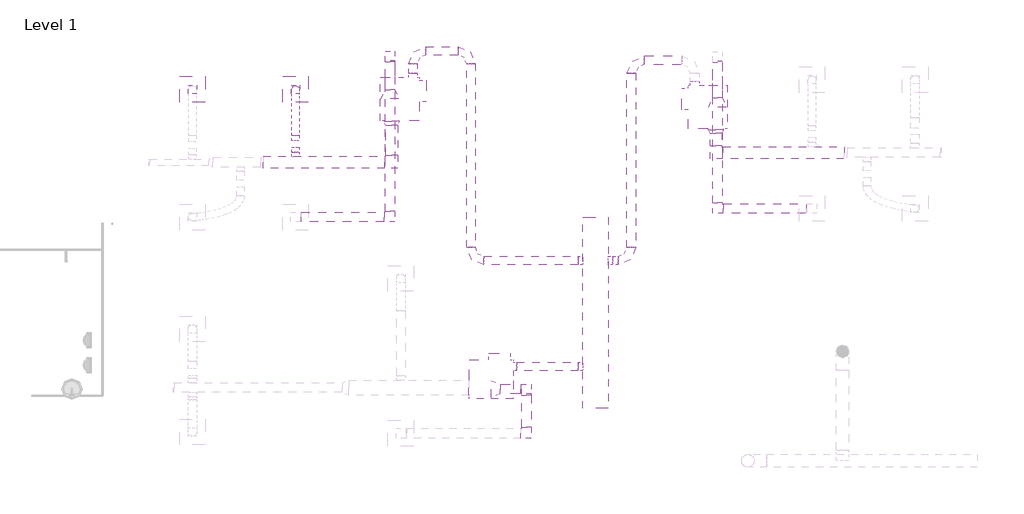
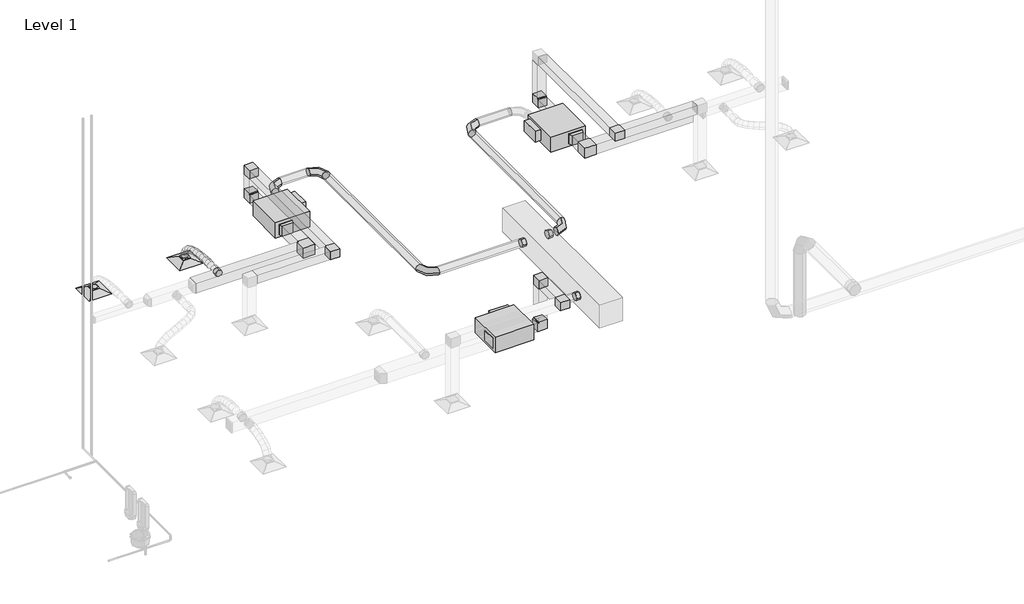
# One storey, part 5 of 7: 27 duct segments, 26 duct fittings, 3 proxies, 2 air terminals.
"""IFC4 building model written with IfcOpenShell, lengths in millimetres."""

from ifc_helpers import new_model, si_unit, point, frame, frame_2d, origin, place, context, project, spatial, polyline, circle_curve, ellipse_curve, trimmed, segment, composite_curve, outline, extrude, transform, mapped, element, save
from ifc_brep_helpers import plane_surface, cylinder_surface, advanced_brep
from components import return_diffuser_24_x_24_face_8_x_8_connection_1cf4ec6c, vav_unit_parallel_fan_powered_size_3_8_inch_inlet_1779b90c, vav_unit_parallel_fan_powered_size_3_8_inch_inlet_9de80a88, rectangular_elbow_mitered_standard_c807a2e4, rectangular_elbow_mitered_standard_ce3c2c2c, rectangular_elbow_mitered_standard_02695c2b, rectangular_elbow_mitered_standard_e940fa41, rectangular_elbow_mitered_standard_b28c36ac, rectangular_transition_angle_45_degree_5c02a915, rectangular_transition_angle_45_degree_d2551588, rectangular_transition_angle_45_degree_34230bd5, rectangular_transition_angle_45_degree_159382a9, rectangular_transition_angle_45_degree_902e052a, rectangular_to_round_transition_angle_45_degree_5c3b2161, round_elbow_1_5_d_83134554, round_takeoff_standard_f7421198, round_takeoff_standard_1127d77f, round_takeoff_standard_d3b0d0f9

model = new_model("IFC4")

# Units and contexts
model_context = context("Model", 3, world=origin())
ifc_project = project(units=[si_unit("LENGTHUNIT", "METRE", prefix="MILLI")], contexts=[model_context])

# Site, building, storey
site = spatial("IfcSite", under=ifc_project)
building = spatial("IfcBuilding", under=site)
storey = spatial("IfcBuildingStorey", under=building, Name="Level 1", Elevation=0.0)

# Air terminals
placement = place(None, origin())
return_diffuser_24_x_24_face_8_x_8_connection_shape = return_diffuser_24_x_24_face_8_x_8_connection_1cf4ec6c(model_context)
element("IfcAirTerminal", 1, ObjectType="Supply Diffuser : 24 x 24 Face 8 x 8 Connection", at=placement, inside=storey, context=model_context, shape_type="MappedRepresentation", body=[
    mapped(return_diffuser_24_x_24_face_8_x_8_connection_shape, transform((-14620.325255, 16201.8737109, 2438.4), x_axis=(1.0, 0.0, 0.0), y_axis=(0.0, 1.0, 0.0), z_axis=(0.0, 0.0, 1.0))),
])
element("IfcAirTerminal", 2, ObjectType="Supply Diffuser : 24 x 24 Face 8 x 8 Connection", at=placement, inside=storey, context=model_context, shape_type="MappedRepresentation", body=[
    mapped(return_diffuser_24_x_24_face_8_x_8_connection_shape, transform((-12181.925255, 16201.8737109, 2438.4), x_axis=(1.0, 0.0, 0.0), y_axis=(0.0, 1.0, 0.0), z_axis=(0.0, 0.0, 1.0))),
])

# Proxies
vav_unit_parallel_fan_powered_size_3_8_inch_inlet_shape = vav_unit_parallel_fan_powered_size_3_8_inch_inlet_1779b90c(model_context)
element("IfcBuildingElementProxy", 3, Name="VAV Unit - Parallel Fan Powered : Size 3 - 8 inch Inlet", ObjectType="VAV Unit - Parallel Fan Powered : Size 3 - 8 inch Inlet", at=placement, inside=storey, context=model_context, shape_type="MappedRepresentation", body=[
    mapped(vav_unit_parallel_fan_powered_size_3_8_inch_inlet_shape, transform((-9717.4242371, 15973.8698996, 3048.0), x_axis=(0.0, -1.0, 0.0), y_axis=(1.0, 0.0, 0.0), z_axis=(0.0, 0.0, 1.0))),
])
vav_unit_parallel_fan_powered_size_3_8_inch_inlet_2_shape = vav_unit_parallel_fan_powered_size_3_8_inch_inlet_9de80a88(model_context)
element("IfcBuildingElementProxy", 4, Name="VAV Unit - Parallel Fan Powered : Size 3 - 8 inch Inlet", ObjectType="VAV Unit - Parallel Fan Powered : Size 3 - 8 inch Inlet", at=placement, inside=storey, context=model_context, shape_type="MappedRepresentation", body=[
    mapped(vav_unit_parallel_fan_powered_size_3_8_inch_inlet_2_shape, transform((-7559.125255, 9347.2748073, 3048.0), x_axis=(-1.0000000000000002, 0.0, 0.0), y_axis=(0.0, -1.0000000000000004, 0.0), z_axis=(0.0, 0.0, 1.0000000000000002))),
])
element("IfcBuildingElementProxy", 5, Name="VAV Unit - Parallel Fan Powered : Size 3 - 8 inch Inlet", ObjectType="VAV Unit - Parallel Fan Powered : Size 3 - 8 inch Inlet", at=placement, inside=storey, context=model_context, shape_type="MappedRepresentation", body=[
    mapped(vav_unit_parallel_fan_powered_size_3_8_inch_inlet_2_shape, transform((-2438.5512728, 15784.0573996, 3048.0), x_axis=(0.0, -1.0, 0.0), y_axis=(1.0, 0.0, 0.0), z_axis=(0.0, 0.0, 1.0))),
])

# Duct fittings
rectangular_elbow_mitered_standard_shape = rectangular_elbow_mitered_standard_c807a2e4(model_context)
element("IfcDuctFitting", 6, ObjectType="Rectangular Elbow - Mitered : Standard", at=placement, inside=storey, context=model_context, shape_type="MappedRepresentation", body=[
    mapped(rectangular_elbow_mitered_standard_shape, transform((-9911.0992371, 14476.8573996, 3048.0), x_axis=(1.0, 0.0, 0.0), y_axis=(0.0, 1.0, 0.0), z_axis=(0.0, 0.0, 1.0))),
])
rectangular_elbow_mitered_standard_2_shape = rectangular_elbow_mitered_standard_ce3c2c2c(model_context)
element("IfcDuctFitting", 7, ObjectType="Rectangular Elbow - Mitered : Standard", at=placement, inside=storey, context=model_context, shape_type="MappedRepresentation", body=[
    mapped(rectangular_elbow_mitered_standard_2_shape, transform((-9949.1992371, 16989.8698996, 3048.0), x_axis=(0.0, 1.0, 0.0), y_axis=(0.0, 0.0, 1.0), z_axis=(1.0, 0.0, 0.0))),
])
element("IfcDuctFitting", 8, ObjectType="Rectangular Elbow - Mitered : Standard", at=placement, inside=storey, context=model_context, shape_type="MappedRepresentation", body=[
    mapped(rectangular_elbow_mitered_standard_2_shape, transform((-9949.1992371, 16989.8698996, 3747.2), x_axis=(0.0, 0.0, 1.0), y_axis=(0.0, -1.0, 0.0), z_axis=(1.0, 0.0, 0.0))),
])
element("IfcDuctFitting", 9, ObjectType="Rectangular Elbow - Mitered : Standard", at=placement, inside=storey, context=model_context, shape_type="MappedRepresentation", body=[
    mapped(rectangular_elbow_mitered_standard_2_shape, transform((-9949.1992371, 13180.8612109, 3747.2), x_axis=(1.0, 0.0, 0.0), y_axis=(0.0, 1.0, 0.0), z_axis=(0.0, 0.0, 1.0))),
])
rectangular_elbow_mitered_standard_3_shape = rectangular_elbow_mitered_standard_02695c2b(model_context)
element("IfcDuctFitting", 10, ObjectType="Rectangular Elbow - Mitered : Standard", at=placement, inside=storey, context=model_context, shape_type="MappedRepresentation", body=[
    mapped(rectangular_elbow_mitered_standard_3_shape, transform((-6724.5351062, 9115.4998073, 3048.0), x_axis=(1.0, 0.0, 0.0), y_axis=(0.0, 0.0, 1.0), z_axis=(0.0, -1.0, 0.0))),
])
element("IfcDuctFitting", 11, ObjectType="Rectangular Elbow - Mitered : Standard", at=placement, inside=storey, context=model_context, shape_type="MappedRepresentation", body=[
    mapped(rectangular_elbow_mitered_standard_3_shape, transform((-6724.5351062, 9115.4998073, 4267.2), x_axis=(0.0, 0.0, 1.0), y_axis=(0.0, -1.0, 0.0), z_axis=(1.0, 0.0, 0.0))),
])
element("IfcDuctFitting", 12, ObjectType="Rectangular Elbow - Mitered : Standard", at=placement, inside=storey, context=model_context, shape_type="MappedRepresentation", body=[
    mapped(rectangular_elbow_mitered_standard_3_shape, transform((-6724.5351062, 8073.8737109, 4267.2), x_axis=(1.0, 0.0, 0.0), y_axis=(0.0, 1.0, 0.0), z_axis=(0.0, 0.0, 1.0))),
])
rectangular_elbow_mitered_standard_4_shape = rectangular_elbow_mitered_standard_e940fa41(model_context)
element("IfcDuctFitting", 13, ObjectType="Rectangular Elbow - Mitered : Standard", at=placement, inside=storey, context=model_context, shape_type="MappedRepresentation", body=[
    mapped(rectangular_elbow_mitered_standard_4_shape, transform((-2244.8762728, 14707.0448996, 3048.0), x_axis=(-1.0, 0.0, 0.0), y_axis=(0.0, -1.0, 0.0), z_axis=(0.0, 0.0, 1.0))),
])
rectangular_elbow_mitered_standard_5_shape = rectangular_elbow_mitered_standard_b28c36ac(model_context)
element("IfcDuctFitting", 14, ObjectType="Rectangular Elbow - Mitered : Standard", at=placement, inside=storey, context=model_context, shape_type="MappedRepresentation", body=[
    mapped(rectangular_elbow_mitered_standard_5_shape, transform((-2206.7762728, 16980.0573996, 3048.0), x_axis=(0.0, 1.0, 0.0), y_axis=(0.0, 0.0, -1.0), z_axis=(-1.0, 0.0, 0.0))),
])
element("IfcDuctFitting", 15, ObjectType="Rectangular Elbow - Mitered : Standard", at=placement, inside=storey, context=model_context, shape_type="MappedRepresentation", body=[
    mapped(rectangular_elbow_mitered_standard_5_shape, transform((-2206.7762728, 13384.0612109, 4267.2), x_axis=(-1.0, 0.0, 0.0), y_axis=(0.0, -1.0, 0.0), z_axis=(0.0, 0.0, 1.0))),
])
rectangular_transition_angle_45_degree_shape = rectangular_transition_angle_45_degree_5c02a915(model_context)
element("IfcDuctFitting", 16, ObjectType="Rectangular Transition - Angle : 45 Degree", at=placement, inside=storey, context=model_context, shape_type="MappedRepresentation", body=[
    mapped(rectangular_transition_angle_45_degree_shape, transform((-9911.0992371, 15442.0573996, 3048.0), x_axis=(0.0, -1.0, 0.0), y_axis=(1.0, 0.0, 0.0), z_axis=(0.0, 0.0, 1.0))),
])
rectangular_transition_angle_45_degree_2_shape = rectangular_transition_angle_45_degree_d2551588(model_context)
element("IfcDuctFitting", 17, ObjectType="Rectangular Transition - Angle : 45 Degree", at=placement, inside=storey, context=model_context, shape_type="MappedRepresentation", body=[
    mapped(rectangular_transition_angle_45_degree_2_shape, transform((-9949.1992371, 15973.8698996, 3048.0), x_axis=(0.0, 1.0, 0.0), y_axis=(-1.0, 0.0, 0.0), z_axis=(0.0, 0.0, 1.0))),
])
rectangular_transition_angle_45_degree_3_shape = rectangular_transition_angle_45_degree_34230bd5(model_context)
element("IfcDuctFitting", 18, ObjectType="Rectangular Transition - Angle : 45 Degree", at=placement, inside=storey, context=model_context, shape_type="MappedRepresentation", body=[
    mapped(rectangular_transition_angle_45_degree_3_shape, transform((-7559.125255, 9115.4998073, 3048.0), x_axis=(1.0, 0.0, 0.0), y_axis=(0.0, 1.0, 0.0), z_axis=(0.0, 0.0, 1.0))),
])
rectangular_transition_angle_45_degree_4_shape = rectangular_transition_angle_45_degree_159382a9(model_context)
element("IfcDuctFitting", 19, ObjectType="Rectangular Transition - Angle : 45 Degree", at=placement, inside=storey, context=model_context, shape_type="MappedRepresentation", body=[
    mapped(rectangular_transition_angle_45_degree_4_shape, transform((-2244.8762728, 15252.2448996, 3048.0), x_axis=(0.0, -1.0, 0.0), y_axis=(1.0, 0.0, 0.0), z_axis=(0.0, 0.0, 1.0))),
])
rectangular_transition_angle_45_degree_5_shape = rectangular_transition_angle_45_degree_902e052a(model_context)
element("IfcDuctFitting", 20, ObjectType="Rectangular Transition - Angle : 45 Degree", at=placement, inside=storey, context=model_context, shape_type="MappedRepresentation", body=[
    mapped(rectangular_transition_angle_45_degree_5_shape, transform((-2206.7762728, 15784.0573996, 3048.0), x_axis=(0.0, 1.0, 0.0), y_axis=(-1.0, 0.0, 0.0), z_axis=(0.0, 0.0, 1.0))),
])
rectangular_to_round_transition_angle_45_degree_shape = rectangular_to_round_transition_angle_45_degree_5c3b2161(model_context)
element("IfcDuctFitting", 21, ObjectType="Rectangular to Round Transition - Angle : 45 Degree", at=placement, inside=storey, context=model_context, shape_type="MappedRepresentation", body=[
    mapped(rectangular_to_round_transition_angle_45_degree_shape, transform((-14620.325255, 16201.8737109, 2540.0), x_axis=(0.0, 0.0, 1.0), y_axis=(1.0, 0.0, 0.0), z_axis=(0.0, 1.0, 0.0))),
])
element("IfcDuctFitting", 22, ObjectType="Rectangular to Round Transition - Angle : 45 Degree", at=placement, inside=storey, context=model_context, shape_type="MappedRepresentation", body=[
    mapped(rectangular_to_round_transition_angle_45_degree_shape, transform((-12181.925255, 16201.8737109, 2540.0), x_axis=(0.0, 0.0, 1.0), y_axis=(1.0, 0.0, 0.0), z_axis=(0.0, 1.0, 0.0))),
])
round_elbow_1_5_d_shape = round_elbow_1_5_d_83134554(model_context)
element("IfcDuctFitting", 23, ObjectType="Round Elbow : 1.5 D", at=placement, inside=storey, context=model_context, shape_type="MappedRepresentation", body=[
    mapped(round_elbow_1_5_d_shape, transform((-9409.4492371, 17112.1073996, 3048.0), x_axis=(-1.0, 0.0, 0.0), y_axis=(0.0, -1.0, 0.0), z_axis=(0.0, 0.0, 1.0))),
])
element("IfcDuctFitting", 24, ObjectType="Round Elbow : 1.5 D", at=placement, inside=storey, context=model_context, shape_type="MappedRepresentation", body=[
    mapped(round_elbow_1_5_d_shape, transform((-8037.8492371, 17112.1073996, 3048.0), x_axis=(0.0, 1.0, 0.0), y_axis=(-1.0, 0.0, 0.0), z_axis=(0.0, 0.0, 1.0))),
])
element("IfcDuctFitting", 25, ObjectType="Round Elbow : 1.5 D", at=placement, inside=storey, context=model_context, shape_type="MappedRepresentation", body=[
    mapped(round_elbow_1_5_d_shape, transform((-8037.8492371, 12159.1073996, 3048.0), x_axis=(0.0, -1.0, 0.0), y_axis=(1.0, 0.0, 0.0), z_axis=(0.0, 0.0, 1.0))),
])
element("IfcDuctFitting", 26, ObjectType="Round Elbow : 1.5 D", at=placement, inside=storey, context=model_context, shape_type="MappedRepresentation", body=[
    mapped(round_elbow_1_5_d_shape, transform((-4246.5262728, 16888.8948996, 3048.0), x_axis=(-1.0, 0.0, 0.0), y_axis=(0.0, -1.0, 0.0), z_axis=(0.0, 0.0, 1.0))),
])
element("IfcDuctFitting", 27, ObjectType="Round Elbow : 1.5 D", at=placement, inside=storey, context=model_context, shape_type="MappedRepresentation", body=[
    mapped(round_elbow_1_5_d_shape, transform((-4246.5262728, 12159.1073996, 3048.0), x_axis=(1.0, 0.0, 0.0), y_axis=(0.0, 1.0, 0.0), z_axis=(0.0, 0.0, 1.0))),
])
round_takeoff_standard_shape = round_takeoff_standard_f7421198(model_context)
element("IfcDuctFitting", 28, ObjectType="Round Takeoff : Standard", at=placement, inside=storey, context=model_context, shape_type="MappedRepresentation", body=[
    mapped(round_takeoff_standard_shape, transform((-12181.925255, 14616.5573996, 3048.0), x_axis=(0.0, 1.0, 0.0), y_axis=(-1.0, 0.0, 0.0), z_axis=(0.0, 0.0, 1.0))),
])
round_takeoff_standard_2_shape = round_takeoff_standard_1127d77f(model_context)
element("IfcDuctFitting", 29, ObjectType="Round Takeoff : Standard", at=placement, inside=storey, context=model_context, shape_type="MappedRepresentation", body=[
    mapped(round_takeoff_standard_2_shape, transform((-5397.2679456, 12159.1073996, 3048.0), x_axis=(-1.0, 0.0, 0.0), y_axis=(0.0, 1.0, 0.0), z_axis=(0.0, 0.0, -1.0))),
])
element("IfcDuctFitting", 30, ObjectType="Round Takeoff : Standard", at=placement, inside=storey, context=model_context, shape_type="MappedRepresentation", body=[
    mapped(round_takeoff_standard_2_shape, transform((-5397.2679456, 9655.2498073, 3048.0), x_axis=(-1.0, 0.0, 0.0), y_axis=(0.0, 1.0, 0.0), z_axis=(0.0, 0.0, -1.0))),
])
round_takeoff_standard_3_shape = round_takeoff_standard_d3b0d0f9(model_context)
element("IfcDuctFitting", 31, ObjectType="Round Takeoff : Standard", at=placement, inside=storey, context=model_context, shape_type="MappedRepresentation", body=[
    mapped(round_takeoff_standard_3_shape, transform((-4787.2679456, 12159.1073996, 3048.0), x_axis=(1.0, 0.0, 0.0), y_axis=(0.0, -1.0, 0.0), z_axis=(0.0, 0.0, -1.0))),
])

# Duct segments
element("IfcDuctSegment", 32, ObjectType="Flex - Round", at=placement, inside=storey, context=model_context, shape_type="AdvancedBrep", body=[
    advanced_brep(
    [(-12093.025255, 16201.8737109, 2570.6605122), (-12181.925255, 16112.9737109, 2570.6605122), (-12270.825255, 16201.8737109, 2570.6605122), (-12181.925255, 16290.7737109, 2570.6605122), (-12093.025255, 16201.8737109, 2586.4523181), (-12181.925255, 16112.9737109, 2577.1822102), (-12270.825255, 16201.8737109, 2586.4523181), (-12181.925255, 16290.7737109, 2595.722426), (-12093.025255, 15111.8573996, 3048.0), (-12181.925255, 15113.7175086, 3136.8805378), (-12270.825255, 15111.8573996, 3048.0), (-12181.925255, 15109.9972905, 2959.1194622), (-12093.025255, 16182.0628327, 2680.4122246), (-12181.925255, 16098.1652096, 2647.4166232), (-12270.825255, 16182.0628327, 2680.4122246), (-12181.925255, 16265.9604558, 2713.4078261), (-12093.025255, 16126.5905159, 2772.6178247), (-12181.925255, 16057.3471166, 2715.2641005), (-12270.825255, 16126.5905159, 2772.6178247), (-12181.925255, 16195.8339153, 2829.9715488), (-12093.025255, 16041.3972373, 2848.6889575), (-12181.925255, 15989.3806328, 2775.9530129), (-12270.825255, 16041.3972373, 2848.6889575), (-12181.925255, 16093.4138419, 2921.4249021), (-12093.025255, 15932.4234736, 2910.0372683), (-12181.925255, 15894.6580011, 2829.2784488), (-12270.825255, 15932.4234736, 2910.0372683), (-12181.925255, 15970.1889461, 2990.7960879), (-12093.025255, 15805.6097014, 2958.0744023), (-12181.925255, 15778.5801244, 2873.248819), (-12270.825255, 15805.6097014, 2958.0744023), (-12181.925255, 15832.6392785, 3042.8999856), (-12093.025255, 15666.8963976, 2994.2120046), (-12181.925255, 15647.9006517, 2907.2934469), (-12270.825255, 15666.8963976, 2994.2120046), (-12181.925255, 15685.8921434, 3081.1305623), (-12093.025255, 15522.2240387, 3019.8617203), (-12181.925255, 15509.3937796, 2931.8500514), (-12270.825255, 15522.2240387, 3019.8617203), (-12181.925255, 15535.0542978, 3107.8733893), (-12093.025255, 15377.5331016, 3036.4351947), (-12181.925255, 15369.6219701, 2947.8600693), (-12270.825255, 15377.5331016, 3036.4351947), (-12181.925255, 15385.4442332, 3125.0103201), (-12093.025255, 15238.764063, 3045.3440729), (-12181.925255, 15234.9844493, 2956.5037069), (-12270.825255, 15238.764063, 3045.3440729), (-12181.925255, 15242.5436768, 3134.1844389)],
    [
        (0, 1, circle_curve(frame((-12181.925255, 16201.8737109, 2570.6605122), z_axis=(0.0, 0.0, -1.0), x_axis=(1.0, 0.0, 0.0)), 88.9)),
        (1, 2, circle_curve(frame((-12181.925255, 16201.8737109, 2570.6605122), z_axis=(0.0, 0.0, -1.0), x_axis=(1.0, 0.0, 0.0)), 88.9)),
        (2, 3, circle_curve(frame((-12181.925255, 16201.8737109, 2570.6605122), z_axis=(0.0, 0.0, -1.0), x_axis=(1.0, 0.0, 0.0)), 88.9)),
        (3, 0, circle_curve(frame((-12181.925255, 16201.8737109, 2570.6605122), z_axis=(0.0, 0.0, -1.0), x_axis=(1.0, 0.0, 0.0)), 88.9)),
        (0, 4),
        (4, 5, ellipse_curve(frame((-12181.925255, 16201.8737109, 2586.4523181), z_axis=(0.0, 0.10371334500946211, -0.9946072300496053), x_axis=(0.0, -0.9946072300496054, -0.10371334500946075)), 89.3820167, 88.9)),
        (5, 1),
        (5, 6, ellipse_curve(frame((-12181.925255, 16201.8737109, 2586.4523181), z_axis=(0.0, 0.10371334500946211, -0.9946072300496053), x_axis=(0.0, -0.9946072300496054, -0.10371334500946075)), 89.3820167, 88.9)),
        (6, 2),
        (6, 7, ellipse_curve(frame((-12181.925255, 16201.8737109, 2586.4523181), z_axis=(0.0, 0.10371334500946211, -0.9946072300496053), x_axis=(0.0, -0.9946072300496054, -0.10371334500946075)), 89.3820167, 88.9)),
        (7, 3),
        (7, 4, ellipse_curve(frame((-12181.925255, 16201.8737109, 2586.4523181), z_axis=(0.0, 0.10371334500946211, -0.9946072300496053), x_axis=(0.0, -0.9946072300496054, -0.10371334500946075)), 89.3820167, 88.9)),
        (8, 9, circle_curve(frame((-12181.925255, 15111.8573996, 3048.0), z_axis=(0.0, -0.9997810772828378, 0.02092361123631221), x_axis=(1.0, 0.0, 0.0)), 88.9)),
        (9, 10, circle_curve(frame((-12181.925255, 15111.8573996, 3048.0), z_axis=(0.0, -0.9997810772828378, 0.02092361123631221), x_axis=(1.0, 0.0, 0.0)), 88.9)),
        (10, 11, circle_curve(frame((-12181.925255, 15111.8573996, 3048.0), z_axis=(0.0, -0.9997810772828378, 0.02092361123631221), x_axis=(1.0, 0.0, 0.0)), 88.9)),
        (11, 8, circle_curve(frame((-12181.925255, 15111.8573996, 3048.0), z_axis=(0.0, -0.9997810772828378, 0.02092361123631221), x_axis=(1.0, 0.0, 0.0)), 88.9)),
        (4, 12),
        (12, 13, ellipse_curve(frame((-12181.925255, 16182.0628327, 2680.4122246), z_axis=(0.0, 0.36599655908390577, -0.9306162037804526), x_axis=(0.0, -0.9306162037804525, -0.3659965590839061)), 90.1527642, 88.9)),
        (13, 5),
        (13, 14, ellipse_curve(frame((-12181.925255, 16182.0628327, 2680.4122246), z_axis=(0.0, 0.36599655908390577, -0.9306162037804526), x_axis=(0.0, -0.9306162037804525, -0.3659965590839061)), 90.1527642, 88.9)),
        (14, 6),
        (14, 15, ellipse_curve(frame((-12181.925255, 16182.0628327, 2680.4122246), z_axis=(0.0, 0.36599655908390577, -0.9306162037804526), x_axis=(0.0, -0.9306162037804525, -0.3659965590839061)), 90.1527642, 88.9)),
        (15, 7),
        (15, 12, ellipse_curve(frame((-12181.925255, 16182.0628327, 2680.4122246), z_axis=(0.0, 0.36599655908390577, -0.9306162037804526), x_axis=(0.0, -0.9306162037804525, -0.3659965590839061)), 90.1527642, 88.9)),
        (12, 16),
        (16, 17, ellipse_curve(frame((-12181.925255, 16126.5905159, 2772.6178247), z_axis=(0.0, 0.6378900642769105, -0.7701274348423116), x_axis=(0.0, -0.7701274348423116, -0.6378900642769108)), 89.9116123, 88.9)),
        (17, 13),
        (17, 18, ellipse_curve(frame((-12181.925255, 16126.5905159, 2772.6178247), z_axis=(0.0, 0.6378900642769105, -0.7701274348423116), x_axis=(0.0, -0.7701274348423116, -0.6378900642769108)), 89.9116123, 88.9)),
        (18, 14),
        (18, 19, ellipse_curve(frame((-12181.925255, 16126.5905159, 2772.6178247), z_axis=(0.0, 0.6378900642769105, -0.7701274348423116), x_axis=(0.0, -0.7701274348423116, -0.6378900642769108)), 89.9116123, 88.9)),
        (19, 15),
        (19, 16, ellipse_curve(frame((-12181.925255, 16126.5905159, 2772.6178247), z_axis=(0.0, 0.6378900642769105, -0.7701274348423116), x_axis=(0.0, -0.7701274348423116, -0.6378900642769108)), 89.9116123, 88.9)),
        (16, 20),
        (20, 21, ellipse_curve(frame((-12181.925255, 16041.3972373, 2848.6889575), z_axis=(0.0, 0.8134035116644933, -0.5816998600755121), x_axis=(0.0, -0.5816998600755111, -0.8134035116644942)), 89.4217244, 88.9)),
        (21, 17),
        (21, 22, ellipse_curve(frame((-12181.925255, 16041.3972373, 2848.6889575), z_axis=(0.0, 0.8134035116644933, -0.5816998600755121), x_axis=(0.0, -0.5816998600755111, -0.8134035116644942)), 89.4217244, 88.9)),
        (22, 18),
        (22, 23, ellipse_curve(frame((-12181.925255, 16041.3972373, 2848.6889575), z_axis=(0.0, 0.8134035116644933, -0.5816998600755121), x_axis=(0.0, -0.5816998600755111, -0.8134035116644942)), 89.4217244, 88.9)),
        (23, 19),
        (23, 20, ellipse_curve(frame((-12181.925255, 16041.3972373, 2848.6889575), z_axis=(0.0, 0.8134035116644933, -0.5816998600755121), x_axis=(0.0, -0.5816998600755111, -0.8134035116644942)), 89.4217244, 88.9)),
        (20, 24),
        (24, 25, ellipse_curve(frame((-12181.925255, 15932.4234736, 2910.0372683), z_axis=(0.0, 0.9058474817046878, -0.4236039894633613), x_axis=(0.0, -0.4236039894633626, -0.9058474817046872)), 89.1527782, 88.9)),
        (25, 21),
        (25, 26, ellipse_curve(frame((-12181.925255, 15932.4234736, 2910.0372683), z_axis=(0.0, 0.9058474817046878, -0.4236039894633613), x_axis=(0.0, -0.4236039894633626, -0.9058474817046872)), 89.1527782, 88.9)),
        (26, 22),
        (26, 27, ellipse_curve(frame((-12181.925255, 15932.4234736, 2910.0372683), z_axis=(0.0, 0.9058474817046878, -0.4236039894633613), x_axis=(0.0, -0.4236039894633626, -0.9058474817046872)), 89.1527782, 88.9)),
        (27, 23),
        (27, 24, ellipse_curve(frame((-12181.925255, 15932.4234736, 2910.0372683), z_axis=(0.0, 0.9058474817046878, -0.4236039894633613), x_axis=(0.0, -0.4236039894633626, -0.9058474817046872)), 89.1527782, 88.9)),
        (24, 28),
        (28, 29, ellipse_curve(frame((-12181.925255, 15805.6097014, 2958.0744023), z_axis=(0.0, 0.9527971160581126, -0.3036077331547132), x_axis=(0.0, -0.3036077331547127, -0.9527971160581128)), 89.0279598, 88.9)),
        (29, 25),
        (29, 30, ellipse_curve(frame((-12181.925255, 15805.6097014, 2958.0744023), z_axis=(0.0, 0.9527971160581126, -0.3036077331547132), x_axis=(0.0, -0.3036077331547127, -0.9527971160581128)), 89.0279598, 88.9)),
        (30, 26),
        (30, 31, ellipse_curve(frame((-12181.925255, 15805.6097014, 2958.0744023), z_axis=(0.0, 0.9527971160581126, -0.3036077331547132), x_axis=(0.0, -0.3036077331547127, -0.9527971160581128)), 89.0279598, 88.9)),
        (31, 27),
        (31, 28, ellipse_curve(frame((-12181.925255, 15805.6097014, 2958.0744023), z_axis=(0.0, 0.9527971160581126, -0.3036077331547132), x_axis=(0.0, -0.3036077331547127, -0.9527971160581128)), 89.0279598, 88.9)),
        (28, 32),
        (32, 33, ellipse_curve(frame((-12181.925255, 15666.8963976, 2994.2120046), z_axis=(0.0, 0.9769415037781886, -0.2135071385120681), x_axis=(0.0, -0.21350713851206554, -0.9769415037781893)), 88.9700738, 88.9)),
        (33, 29),
        (33, 34, ellipse_curve(frame((-12181.925255, 15666.8963976, 2994.2120046), z_axis=(0.0, 0.9769415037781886, -0.2135071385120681), x_axis=(0.0, -0.21350713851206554, -0.9769415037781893)), 88.9700738, 88.9)),
        (34, 30),
        (34, 35, ellipse_curve(frame((-12181.925255, 15666.8963976, 2994.2120046), z_axis=(0.0, 0.9769415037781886, -0.2135071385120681), x_axis=(0.0, -0.21350713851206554, -0.9769415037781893)), 88.9700738, 88.9)),
        (35, 31),
        (35, 32, ellipse_curve(frame((-12181.925255, 15666.8963976, 2994.2120046), z_axis=(0.0, 0.9769415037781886, -0.2135071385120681), x_axis=(0.0, -0.21350713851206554, -0.9769415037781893)), 88.9700738, 88.9)),
        (32, 36),
        (36, 37, ellipse_curve(frame((-12181.925255, 15522.2240387, 3019.8617203), z_axis=(0.0, 0.9895406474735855, -0.14425431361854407), x_axis=(0.0, -0.14425431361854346, -0.9895406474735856)), 88.9419441, 88.9)),
        (37, 33),
        (37, 38, ellipse_curve(frame((-12181.925255, 15522.2240387, 3019.8617203), z_axis=(0.0, 0.9895406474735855, -0.14425431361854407), x_axis=(0.0, -0.14425431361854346, -0.9895406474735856)), 88.9419441, 88.9)),
        (38, 34),
        (38, 39, ellipse_curve(frame((-12181.925255, 15522.2240387, 3019.8617203), z_axis=(0.0, 0.9895406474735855, -0.14425431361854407), x_axis=(0.0, -0.14425431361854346, -0.9895406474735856)), 88.9419441, 88.9)),
        (39, 35),
        (39, 36, ellipse_curve(frame((-12181.925255, 15522.2240387, 3019.8617203), z_axis=(0.0, 0.9895406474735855, -0.14425431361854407), x_axis=(0.0, -0.14425431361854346, -0.9895406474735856)), 88.9419441, 88.9)),
        (36, 40),
        (40, 41, ellipse_curve(frame((-12181.925255, 15377.5331016, 3036.4351947), z_axis=(0.0, 0.9960350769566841, -0.08896137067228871), x_axis=(0.0, -0.08896137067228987, -0.996035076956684)), 88.9277169, 88.9)),
        (41, 37),
        (41, 42, ellipse_curve(frame((-12181.925255, 15377.5331016, 3036.4351947), z_axis=(0.0, 0.9960350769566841, -0.08896137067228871), x_axis=(0.0, -0.08896137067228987, -0.996035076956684)), 88.9277169, 88.9)),
        (42, 38),
        (42, 43, ellipse_curve(frame((-12181.925255, 15377.5331016, 3036.4351947), z_axis=(0.0, 0.9960350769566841, -0.08896137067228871), x_axis=(0.0, -0.08896137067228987, -0.996035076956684)), 88.9277169, 88.9)),
        (43, 39),
        (43, 40, ellipse_curve(frame((-12181.925255, 15377.5331016, 3036.4351947), z_axis=(0.0, 0.9960350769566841, -0.08896137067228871), x_axis=(0.0, -0.08896137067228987, -0.996035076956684)), 88.9277169, 88.9)),
        (40, 44),
        (44, 45, ellipse_curve(frame((-12181.925255, 15238.764063, 3045.3440729), z_axis=(0.0, 0.9990962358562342, -0.042505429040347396), x_axis=(0.0, -0.04250542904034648, -0.9990962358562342)), 88.9207294, 88.9)),
        (45, 41),
        (45, 46, ellipse_curve(frame((-12181.925255, 15238.764063, 3045.3440729), z_axis=(0.0, 0.9990962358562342, -0.042505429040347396), x_axis=(0.0, -0.04250542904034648, -0.9990962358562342)), 88.9207294, 88.9)),
        (46, 42),
        (46, 47, ellipse_curve(frame((-12181.925255, 15238.764063, 3045.3440729), z_axis=(0.0, 0.9990962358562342, -0.042505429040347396), x_axis=(0.0, -0.04250542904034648, -0.9990962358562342)), 88.9207294, 88.9)),
        (47, 43),
        (47, 44, ellipse_curve(frame((-12181.925255, 15238.764063, 3045.3440729), z_axis=(0.0, 0.9990962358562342, -0.042505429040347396), x_axis=(0.0, -0.04250542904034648, -0.9990962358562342)), 88.9207294, 88.9)),
        (44, 8),
        (11, 45),
        (10, 46),
        (9, 47),
    ],
    [
        plane_surface(frame((-12181.925255, 16112.9737109, 2570.6605122), z_axis=(0.0, 0.0, -1.0), x_axis=(1.0, 0.0, 0.0))),
        cylinder_surface(frame((-12181.925255, 16201.8737109, 2570.6605122), z_axis=(0.0, 0.0, -1.0), x_axis=(1.0, 0.0, 0.0)), 88.9),
        plane_surface(frame((-12181.925255, 15109.9972905, 2959.1194622), z_axis=(0.0, -0.9997810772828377, 0.020923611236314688), x_axis=(1.0, 0.0, 0.0))),
        cylinder_surface(frame((-12181.925255, 16201.8737109, 2586.4523181), z_axis=(0.0, 0.20630808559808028, -0.9784870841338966), x_axis=(1.0, 0.0, 0.0)), 88.9),
        cylinder_surface(frame((-12181.925255, 16182.0628327, 2680.4122246), z_axis=(0.0, 0.5155132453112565, -0.8568816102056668), x_axis=(1.0, 0.0, 0.0)), 88.9),
        cylinder_surface(frame((-12181.925255, 16126.5905159, 2772.6178247), z_axis=(0.0, 0.7459128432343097, -0.6660435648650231), x_axis=(1.0, 0.0, 0.0)), 88.9),
        cylinder_surface(frame((-12181.925255, 16041.3972373, 2848.6889575), z_axis=(0.0, 0.8714026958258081, -0.49056838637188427), x_axis=(1.0, 0.0, 0.0)), 88.9),
        cylinder_surface(frame((-12181.925255, 15932.4234736, 2910.0372683), z_axis=(0.0, 0.9351555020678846, -0.35423747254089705), x_axis=(1.0, 0.0, 0.0)), 88.9),
        cylinder_surface(frame((-12181.925255, 15805.6097014, 2958.0744023), z_axis=(0.0, 0.9676998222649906, -0.2521052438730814), x_axis=(1.0, 0.0, 0.0)), 88.9),
        cylinder_surface(frame((-12181.925255, 15666.8963976, 2994.2120046), z_axis=(0.0, 0.9846442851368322, -0.17457271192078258), x_axis=(1.0, 0.0, 0.0)), 88.9),
        cylinder_surface(frame((-12181.925255, 15522.2240387, 3019.8617203), z_axis=(0.0, 0.9935036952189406, -0.11379985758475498), x_axis=(1.0, 0.0, 0.0)), 88.9),
        cylinder_surface(frame((-12181.925255, 15377.5331016, 3036.4351947), z_axis=(0.0, 0.9979455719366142, -0.0640674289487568), x_axis=(1.0, 0.0, 0.0)), 88.9),
        cylinder_surface(frame((-12181.925255, 15238.764063, 3045.3440729), z_axis=(0.0, 0.9997810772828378, -0.02092361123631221), x_axis=(1.0, 0.0, 0.0)), 88.9),
    ],
    [
        (0, [[1, 2, 3, 4]]),
        (1, [[-1, 5, 6, 7]]),
        (1, [[-2, -7, 8, 9]]),
        (1, [[-3, -9, 10, 11]]),
        (1, [[-4, -11, 12, -5]]),
        (2, [[13, 14, 15, 16]]),
        (3, [[-6, 17, 18, 19]]),
        (3, [[-8, -19, 20, 21]]),
        (3, [[-10, -21, 22, 23]]),
        (3, [[-12, -23, 24, -17]]),
        (4, [[-18, 25, 26, 27]]),
        (4, [[-20, -27, 28, 29]]),
        (4, [[-22, -29, 30, 31]]),
        (4, [[-24, -31, 32, -25]]),
        (5, [[-26, 33, 34, 35]]),
        (5, [[-28, -35, 36, 37]]),
        (5, [[-30, -37, 38, 39]]),
        (5, [[-32, -39, 40, -33]]),
        (6, [[-34, 41, 42, 43]]),
        (6, [[-36, -43, 44, 45]]),
        (6, [[-38, -45, 46, 47]]),
        (6, [[-40, -47, 48, -41]]),
        (7, [[-42, 49, 50, 51]]),
        (7, [[-44, -51, 52, 53]]),
        (7, [[-46, -53, 54, 55]]),
        (7, [[-48, -55, 56, -49]]),
        (8, [[-50, 57, 58, 59]]),
        (8, [[-52, -59, 60, 61]]),
        (8, [[-54, -61, 62, 63]]),
        (8, [[-56, -63, 64, -57]]),
        (9, [[-58, 65, 66, 67]]),
        (9, [[-60, -67, 68, 69]]),
        (9, [[-62, -69, 70, 71]]),
        (9, [[-64, -71, 72, -65]]),
        (10, [[-66, 73, 74, 75]]),
        (10, [[-68, -75, 76, 77]]),
        (10, [[-70, -77, 78, 79]]),
        (10, [[-72, -79, 80, -73]]),
        (11, [[-74, 81, 82, 83]]),
        (11, [[-76, -83, 84, 85]]),
        (11, [[-78, -85, 86, 87]]),
        (11, [[-80, -87, 88, -81]]),
        (12, [[-82, 89, -16, 90]]),
        (12, [[-84, -90, -15, 91]]),
        (12, [[-86, -91, -14, 92]]),
        (12, [[-88, -92, -13, -89]]),
    ],
),
])
element("IfcDuctSegment", 33, ObjectType="Mitered Elbows / Tees", at=placement, inside=storey, context=model_context, shape_type="SweptSolid", body=[
    extrude(outline(polyline([(-10050.7992371, 15350.0758629), (-9771.3992371, 15350.0758629), (-9771.3992371, 14641.9573996), (-10050.7992371, 14641.9573996), (-10050.7992371, 15350.0758629)])), frame((0.0, 0.0, 2908.3), z_axis=(0.0, 0.0, 1.0), x_axis=(1.0, 0.0, 0.0)), (0.0, 0.0, 1.0), 279.4),
])
element("IfcDuctSegment", 34, ObjectType="Mitered Elbows / Tees", at=placement, inside=storey, context=model_context, shape_type="SweptSolid", body=[
    extrude(outline(polyline([(-9834.8992371, 16188.4934853), (-10063.4992371, 16188.4934853), (-10063.4992371, 16850.1698996), (-9834.8992371, 16850.1698996), (-9834.8992371, 16188.4934853)])), frame((0.0, 0.0, 2933.7), z_axis=(0.0, 0.0, 1.0), x_axis=(1.0, 0.0, 0.0)), (0.0, 0.0, 1.0), 228.6),
])
element("IfcDuctSegment", 35, ObjectType="Mitered Elbows / Tees", at=placement, inside=storey, context=model_context, shape_type="SweptSolid", body=[
    extrude(outline(polyline([(-10063.4992371, 16850.1698996), (-9834.8992371, 16850.1698996), (-9834.8992371, 13320.5612109), (-10063.4992371, 13320.5612109), (-10063.4992371, 16850.1698996)])), frame((0.0, 0.0, 3632.9), z_axis=(0.0, 0.0, 1.0), x_axis=(1.0, 0.0, 0.0)), (0.0, 0.0, 1.0), 228.6),
])
element("IfcDuctSegment", 36, ObjectType="Mitered Elbows / Tees", at=placement, inside=storey, context=model_context, shape_type="SweptSolid", body=[
    extrude(outline(polyline([(-9834.8992371, 16875.5698996), (-10063.4992371, 16875.5698996), (-10063.4992371, 17104.1698996), (-9834.8992371, 17104.1698996), (-9834.8992371, 16875.5698996)])), frame((0.0, 0.0, 3187.7), z_axis=(0.0, 0.0, 1.0), x_axis=(1.0, 0.0, 0.0)), (0.0, 0.0, 1.0), 419.8),
])
element("IfcDuctSegment", 37, ObjectType="Mitered Elbows / Tees", at=placement, inside=storey, context=model_context, shape_type="SweptSolid", body=[
    extrude(outline(polyline([(-10088.8992371, 13295.1612109), (-10088.8992371, 13066.5612109), (-12042.225255, 13066.5612109), (-12042.225255, 13295.1612109), (-10088.8992371, 13295.1612109)])), frame((0.0, 0.0, 3632.9), z_axis=(0.0, 0.0, 1.0), x_axis=(1.0, 0.0, 0.0)), (0.0, 0.0, 1.0), 228.6),
])
element("IfcDuctSegment", 38, ObjectType="Mitered Elbows / Tees", at=placement, inside=storey, context=model_context, shape_type="SweptSolid", body=[
    extrude(outline(polyline([(-10076.1992371, 14616.5573996), (-10076.1992371, 14337.1573996), (-12948.5782126, 14337.1573996), (-12948.5782126, 14616.5573996), (-10076.1992371, 14616.5573996)])), frame((0.0, 0.0, 2908.3), z_axis=(0.0, 0.0, 1.0), x_axis=(1.0, 0.0, 0.0)), (0.0, 0.0, 1.0), 279.4),
])
element("IfcDuctSegment", 39, ObjectType="Mitered Elbows / Tees", at=placement, inside=storey, context=model_context, shape_type="SweptSolid", body=[
    extrude(outline(polyline([(-4787.2679456, 8659.3957375), (-5397.2679456, 8659.3957375), (-5397.2679456, 13180.7957375), (-4787.2679456, 13180.7957375), (-4787.2679456, 8659.3957375)])), frame((0.0, 0.0, 2718.0), z_axis=(0.0, 0.0, 1.0), x_axis=(1.0, 0.0, 0.0)), (0.0, 0.0, 1.0), 660.0),
])
element("IfcDuctSegment", 40, ObjectType="Mitered Elbows / Tees", at=placement, inside=storey, context=model_context, shape_type="SweptSolid", body=[
    extrude(outline(polyline([(-7344.984512, 9000.9998073), (-7344.984512, 9229.9998073), (-6864.4351062, 9229.9998073), (-6864.4351062, 9000.9998073), (-7344.984512, 9000.9998073)])), frame((0.0, 0.0, 2933.5), z_axis=(0.0, 0.0, 1.0), x_axis=(1.0, 0.0, 0.0)), (0.0, 0.0, 1.0), 229.0),
])
element("IfcDuctSegment", 41, ObjectType="Mitered Elbows / Tees", at=placement, inside=storey, context=model_context, shape_type="SweptSolid", body=[
    extrude(outline(polyline([(-6839.0351062, 9000.9998073), (-6839.0351062, 9229.9998073), (-6610.0351062, 9229.9998073), (-6610.0351062, 9000.9998073), (-6839.0351062, 9000.9998073)])), frame((0.0, 0.0, 3187.9), z_axis=(0.0, 0.0, 1.0), x_axis=(1.0, 0.0, 0.0)), (0.0, 0.0, 1.0), 939.4),
])
element("IfcDuctSegment", 42, ObjectType="Mitered Elbows / Tees", at=placement, inside=storey, context=model_context, shape_type="SweptSolid", body=[
    extrude(outline(polyline([(-6839.0351062, 8975.5998073), (-6610.0351062, 8975.5998073), (-6610.0351062, 8213.7737109), (-6839.0351062, 8213.7737109), (-6839.0351062, 8975.5998073)])), frame((0.0, 0.0, 4152.7), z_axis=(0.0, 0.0, 1.0), x_axis=(1.0, 0.0, 0.0)), (0.0, 0.0, 1.0), 229.0),
])
element("IfcDuctSegment", 43, ObjectType="Mitered Elbows / Tees", at=placement, inside=storey, context=model_context, shape_type="SweptSolid", body=[
    extrude(outline(polyline([(-2384.5762728, 15160.2633629), (-2105.1762728, 15160.2633629), (-2105.1762728, 14872.1448996), (-2384.5762728, 14872.1448996), (-2384.5762728, 15160.2633629)])), frame((0.0, 0.0, 2908.3), z_axis=(0.0, 0.0, 1.0), x_axis=(1.0, 0.0, 0.0)), (0.0, 0.0, 1.0), 279.4),
])
element("IfcDuctSegment", 44, ObjectType="Mitered Elbows / Tees", at=placement, inside=storey, context=model_context, shape_type="SweptSolid", body=[
    extrude(outline(polyline([(-2092.4762728, 15998.6809853), (-2321.0762728, 15998.6809853), (-2321.0762728, 16840.3573996), (-2092.4762728, 16840.3573996), (-2092.4762728, 15998.6809853)])), frame((0.0, 0.0, 2933.7), z_axis=(0.0, 0.0, 1.0), x_axis=(1.0, 0.0, 0.0)), (0.0, 0.0, 1.0), 228.6),
])
element("IfcDuctSegment", 45, ObjectType="Mitered Elbows / Tees", at=placement, inside=storey, context=model_context, shape_type="SweptSolid", body=[
    extrude(outline(polyline([(-2321.0762728, 16840.3573996), (-2092.4762728, 16840.3573996), (-2092.4762728, 13523.7612109), (-2321.0762728, 13523.7612109), (-2321.0762728, 16840.3573996)])), frame((0.0, 0.0, 4152.9), z_axis=(0.0, 0.0, 1.0), x_axis=(1.0, 0.0, 0.0)), (0.0, 0.0, 1.0), 228.6),
])
element("IfcDuctSegment", 46, ObjectType="Mitered Elbows / Tees", at=placement, inside=storey, context=model_context, shape_type="SweptSolid", body=[
    extrude(outline(polyline([(-2092.4762728, 16865.7573996), (-2321.0762728, 16865.7573996), (-2321.0762728, 17094.3573996), (-2092.4762728, 17094.3573996), (-2092.4762728, 16865.7573996)])), frame((0.0, 0.0, 3187.7), z_axis=(0.0, 0.0, 1.0), x_axis=(1.0, 0.0, 0.0)), (0.0, 0.0, 1.0), 939.8),
])
element("IfcDuctSegment", 47, ObjectType="Mitered Elbows / Tees", at=placement, inside=storey, context=model_context, shape_type="SweptSolid", body=[
    extrude(outline(polyline([(-2067.0762728, 13269.7612109), (-2067.0762728, 13498.3612109), (-113.750255, 13498.3612109), (-113.750255, 13269.7612109), (-2067.0762728, 13269.7612109)])), frame((0.0, 0.0, 4152.9), z_axis=(0.0, 0.0, 1.0), x_axis=(1.0, 0.0, 0.0)), (0.0, 0.0, 1.0), 228.6),
])
element("IfcDuctSegment", 48, ObjectType="Mitered Elbows / Tees", at=placement, inside=storey, context=model_context, shape_type="SweptSolid", body=[
    extrude(outline(polyline([(-2079.7762728, 14567.3448996), (-2079.7762728, 14846.7448996), (792.6027027, 14846.7448996), (792.6027027, 14567.3448996), (-2079.7762728, 14567.3448996)])), frame((0.0, 0.0, 2908.3), z_axis=(0.0, 0.0, 1.0), x_axis=(1.0, 0.0, 0.0)), (0.0, 0.0, 1.0), 279.4),
])
element("IfcDuctSegment", 49, ObjectType="Taps", at=placement, inside=storey, context=model_context, shape_type="SweptSolid", body=[
    extrude(outline(composite_curve([segment(trimmed(circle_curve(frame_2d((3048.0, -12181.925255)), 88.9), [point((3048.0, -12093.025255))], [point((3136.9, -12181.925255))], False, "CARTESIAN"), True, "CONTINUOUS"), segment(trimmed(circle_curve(frame_2d((3048.0, -12181.925255)), 88.9), [point((3136.9, -12181.925255))], [point((3048.0, -12270.825255))], False, "CARTESIAN"), True, "CONTINUOUS"), segment(trimmed(circle_curve(frame_2d((3048.0, -12181.925255)), 88.9), [point((3048.0, -12270.825255))], [point((2959.1, -12181.925255))], False, "CARTESIAN"), True, "CONTINUOUS"), segment(trimmed(circle_curve(frame_2d((3048.0, -12181.925255)), 88.9), [point((2959.1, -12181.925255))], [point((3048.0, -12093.025255))], False, "CARTESIAN"), True, "CONTINUOUS")], self_intersect=False)), frame((0.0, 14991.2073996, 0.0), z_axis=(0.0, 1.0, 0.0), x_axis=(0.0, 0.0, 1.0)), (0.0, 0.0, 1.0), 120.65),
])
element("IfcDuctSegment", 50, ObjectType="Taps", at=placement, inside=storey, context=model_context, shape_type="SweptSolid", body=[
    extrude(outline(composite_curve([segment(trimmed(circle_curve(frame_2d((3048.0, -12181.925255)), 88.9), [point((3048.0, -12093.025255))], [point((3136.9, -12181.925255))], False, "CARTESIAN"), True, "CONTINUOUS"), segment(trimmed(circle_curve(frame_2d((3048.0, -12181.925255)), 88.9), [point((3136.9, -12181.925255))], [point((3048.0, -12270.825255))], False, "CARTESIAN"), True, "CONTINUOUS"), segment(trimmed(circle_curve(frame_2d((3048.0, -12181.925255)), 88.9), [point((3048.0, -12270.825255))], [point((2959.1, -12181.925255))], False, "CARTESIAN"), True, "CONTINUOUS"), segment(trimmed(circle_curve(frame_2d((3048.0, -12181.925255)), 88.9), [point((2959.1, -12181.925255))], [point((3048.0, -12093.025255))], False, "CARTESIAN"), True, "CONTINUOUS")], self_intersect=False)), frame((0.0, 14718.1573996, 0.0), z_axis=(0.0, 1.0, 0.0), x_axis=(0.0, 0.0, 1.0)), (0.0, 0.0, 1.0), 120.65),
])
element("IfcDuctSegment", 51, ObjectType="Taps", at=placement, inside=storey, context=model_context, shape_type="SweptSolid", body=[
    extrude(outline(composite_curve([segment(trimmed(circle_curve(frame_2d((3048.0, -9409.4492371)), 101.6), [point((3048.0, -9307.8492371))], [point((3149.6, -9409.4492371))], False, "CARTESIAN"), True, "CONTINUOUS"), segment(trimmed(circle_curve(frame_2d((3048.0, -9409.4492371)), 101.6), [point((3149.6, -9409.4492371))], [point((3048.0, -9511.0492371))], False, "CARTESIAN"), True, "CONTINUOUS"), segment(trimmed(circle_curve(frame_2d((3048.0, -9409.4492371)), 101.6), [point((3048.0, -9511.0492371))], [point((2946.4, -9409.4492371))], False, "CARTESIAN"), True, "CONTINUOUS"), segment(trimmed(circle_curve(frame_2d((3048.0, -9409.4492371)), 101.6), [point((2946.4, -9409.4492371))], [point((3048.0, -9307.8492371))], False, "CARTESIAN"), True, "CONTINUOUS")], self_intersect=False)), frame((0.0, 16578.7073996, 0.0), z_axis=(0.0, 1.0, 0.0), x_axis=(0.0, 0.0, 1.0)), (0.0, 0.0, 1.0), 228.6),
])
element("IfcDuctSegment", 52, ObjectType="Taps", at=placement, inside=storey, context=model_context, shape_type="SweptSolid", body=[
    extrude(outline(composite_curve([segment(trimmed(circle_curve(frame_2d((17112.1073996, 3048.0)), 101.6), [point((17010.5073996, 3048.0))], [point((17112.1073996, 3149.6))], False, "CARTESIAN"), True, "CONTINUOUS"), segment(trimmed(circle_curve(frame_2d((17112.1073996, 3048.0)), 101.6), [point((17112.1073996, 3149.6))], [point((17213.7073996, 3048.0))], False, "CARTESIAN"), True, "CONTINUOUS"), segment(trimmed(circle_curve(frame_2d((17112.1073996, 3048.0)), 101.6), [point((17213.7073996, 3048.0))], [point((17112.1073996, 2946.4))], False, "CARTESIAN"), True, "CONTINUOUS"), segment(trimmed(circle_curve(frame_2d((17112.1073996, 3048.0)), 101.6), [point((17112.1073996, 2946.4))], [point((17010.5073996, 3048.0))], False, "CARTESIAN"), True, "CONTINUOUS")], self_intersect=False)), frame((-9104.6492371, 0.0, 0.0), z_axis=(1.0, 0.0, 0.0), x_axis=(0.0, 1.0, 0.0)), (0.0, 0.0, 1.0), 762.0),
])
element("IfcDuctSegment", 53, ObjectType="Taps", at=placement, inside=storey, context=model_context, shape_type="SweptSolid", body=[
    extrude(outline(composite_curve([segment(trimmed(circle_curve(frame_2d((3048.0, -8037.8492371)), 101.6), [point((3048.0, -8139.4492371))], [point((2946.4, -8037.8492371))], False, "CARTESIAN"), True, "CONTINUOUS"), segment(trimmed(circle_curve(frame_2d((3048.0, -8037.8492371)), 101.6), [point((2946.4, -8037.8492371))], [point((3048.0, -7936.2492371))], False, "CARTESIAN"), True, "CONTINUOUS"), segment(trimmed(circle_curve(frame_2d((3048.0, -8037.8492371)), 101.6), [point((3048.0, -7936.2492371))], [point((3149.6, -8037.8492371))], False, "CARTESIAN"), True, "CONTINUOUS"), segment(trimmed(circle_curve(frame_2d((3048.0, -8037.8492371)), 101.6), [point((3149.6, -8037.8492371))], [point((3048.0, -8139.4492371))], False, "CARTESIAN"), True, "CONTINUOUS")], self_intersect=False)), frame((0.0, 12463.9073996, 0.0), z_axis=(0.0, 1.0, 0.0), x_axis=(0.0, 0.0, 1.0)), (0.0, 0.0, 1.0), 4343.4),
])
element("IfcDuctSegment", 54, ObjectType="Taps", at=placement, inside=storey, context=model_context, shape_type="SweptSolid", body=[
    extrude(outline(composite_curve([segment(trimmed(circle_curve(frame_2d((12159.1073996, 3048.0)), 101.6), [point((12260.7073996, 3048.0))], [point((12159.1073996, 2946.4))], False, "CARTESIAN"), True, "CONTINUOUS"), segment(trimmed(circle_curve(frame_2d((12159.1073996, 3048.0)), 101.6), [point((12159.1073996, 2946.4))], [point((12057.5073996, 3048.0))], False, "CARTESIAN"), True, "CONTINUOUS"), segment(trimmed(circle_curve(frame_2d((12159.1073996, 3048.0)), 101.6), [point((12057.5073996, 3048.0))], [point((12159.1073996, 3149.6))], False, "CARTESIAN"), True, "CONTINUOUS"), segment(trimmed(circle_curve(frame_2d((12159.1073996, 3048.0)), 101.6), [point((12159.1073996, 3149.6))], [point((12260.7073996, 3048.0))], False, "CARTESIAN"), True, "CONTINUOUS")], self_intersect=False)), frame((-7733.0492371, 0.0, 0.0), z_axis=(1.0, 0.0, 0.0), x_axis=(0.0, 1.0, 0.0)), (0.0, 0.0, 1.0), 2234.1812916),
])
element("IfcDuctSegment", 55, ObjectType="Taps", at=placement, inside=storey, context=model_context, shape_type="SweptSolid", body=[
    extrude(outline(composite_curve([segment(trimmed(circle_curve(frame_2d((9655.2498073, 3048.0)), 101.6), [point((9756.8498073, 3048.0))], [point((9655.2498073, 2946.4))], False, "CARTESIAN"), True, "CONTINUOUS"), segment(trimmed(circle_curve(frame_2d((9655.2498073, 3048.0)), 101.6), [point((9655.2498073, 2946.4))], [point((9553.6498073, 3048.0))], False, "CARTESIAN"), True, "CONTINUOUS"), segment(trimmed(circle_curve(frame_2d((9655.2498073, 3048.0)), 101.6), [point((9553.6498073, 3048.0))], [point((9655.2498073, 3149.6))], False, "CARTESIAN"), True, "CONTINUOUS"), segment(trimmed(circle_curve(frame_2d((9655.2498073, 3048.0)), 101.6), [point((9655.2498073, 3149.6))], [point((9756.8498073, 3048.0))], False, "CARTESIAN"), True, "CONTINUOUS")], self_intersect=False)), frame((-6954.287755, 0.0, 0.0), z_axis=(1.0, 0.0, 0.0), x_axis=(0.0, 1.0, 0.0)), (0.0, 0.0, 1.0), 1455.4198094),
])
element("IfcDuctSegment", 56, ObjectType="Taps", at=placement, inside=storey, context=model_context, shape_type="SweptSolid", body=[
    extrude(outline(composite_curve([segment(trimmed(circle_curve(frame_2d((16888.8948996, 3048.0)), 101.6), [point((16990.4948996, 3048.0))], [point((16888.8948996, 2946.4))], False, "CARTESIAN"), True, "CONTINUOUS"), segment(trimmed(circle_curve(frame_2d((16888.8948996, 3048.0)), 101.6), [point((16888.8948996, 2946.4))], [point((16787.2948996, 3048.0))], False, "CARTESIAN"), True, "CONTINUOUS"), segment(trimmed(circle_curve(frame_2d((16888.8948996, 3048.0)), 101.6), [point((16787.2948996, 3048.0))], [point((16888.8948996, 3149.6))], False, "CARTESIAN"), True, "CONTINUOUS"), segment(trimmed(circle_curve(frame_2d((16888.8948996, 3048.0)), 101.6), [point((16888.8948996, 3149.6))], [point((16990.4948996, 3048.0))], False, "CARTESIAN"), True, "CONTINUOUS")], self_intersect=False)), frame((-3941.7262728, 0.0, 0.0), z_axis=(1.0, 0.0, 0.0), x_axis=(0.0, 1.0, 0.0)), (0.0, 0.0, 1.0), 890.4),
])
element("IfcDuctSegment", 57, ObjectType="Taps", at=placement, inside=storey, context=model_context, shape_type="SweptSolid", body=[
    extrude(outline(composite_curve([segment(trimmed(circle_curve(frame_2d((3048.0, -4246.5262728)), 101.6), [point((3048.0, -4348.1262728))], [point((2946.4, -4246.5262728))], False, "CARTESIAN"), True, "CONTINUOUS"), segment(trimmed(circle_curve(frame_2d((3048.0, -4246.5262728)), 101.6), [point((2946.4, -4246.5262728))], [point((3048.0, -4144.9262728))], False, "CARTESIAN"), True, "CONTINUOUS"), segment(trimmed(circle_curve(frame_2d((3048.0, -4246.5262728)), 101.6), [point((3048.0, -4144.9262728))], [point((3149.6, -4246.5262728))], False, "CARTESIAN"), True, "CONTINUOUS"), segment(trimmed(circle_curve(frame_2d((3048.0, -4246.5262728)), 101.6), [point((3149.6, -4246.5262728))], [point((3048.0, -4348.1262728))], False, "CARTESIAN"), True, "CONTINUOUS")], self_intersect=False)), frame((0.0, 12463.9073996, 0.0), z_axis=(0.0, 1.0, 0.0), x_axis=(0.0, 0.0, 1.0)), (0.0, 0.0, 1.0), 4120.1875),
])
element("IfcDuctSegment", 58, ObjectType="Taps", at=placement, inside=storey, context=model_context, shape_type="SweptSolid", body=[
    extrude(outline(composite_curve([segment(trimmed(circle_curve(frame_2d((12159.1073996, 3048.0)), 101.6), [point((12057.5073996, 3048.0))], [point((12159.1073996, 3149.6))], False, "CARTESIAN"), True, "CONTINUOUS"), segment(trimmed(circle_curve(frame_2d((12159.1073996, 3048.0)), 101.6), [point((12159.1073996, 3149.6))], [point((12260.7073996, 3048.0))], False, "CARTESIAN"), True, "CONTINUOUS"), segment(trimmed(circle_curve(frame_2d((12159.1073996, 3048.0)), 101.6), [point((12260.7073996, 3048.0))], [point((12159.1073996, 2946.4))], False, "CARTESIAN"), True, "CONTINUOUS"), segment(trimmed(circle_curve(frame_2d((12159.1073996, 3048.0)), 101.6), [point((12159.1073996, 2946.4))], [point((12057.5073996, 3048.0))], False, "CARTESIAN"), True, "CONTINUOUS")], self_intersect=False)), frame((-4685.6679456, 0.0, 0.0), z_axis=(1.0, 0.0, 0.0), x_axis=(0.0, 1.0, 0.0)), (0.0, 0.0, 1.0), 134.3416727),
])

save(model, "model.ifc")
